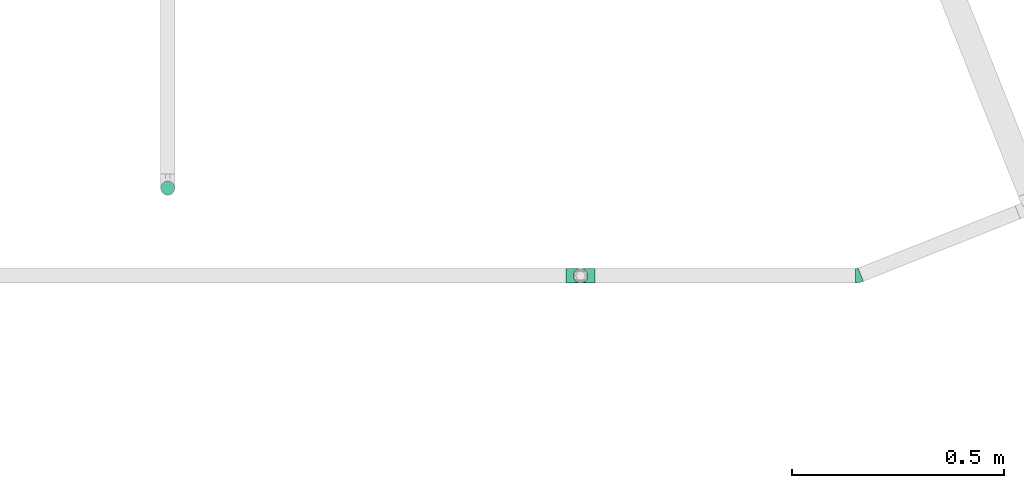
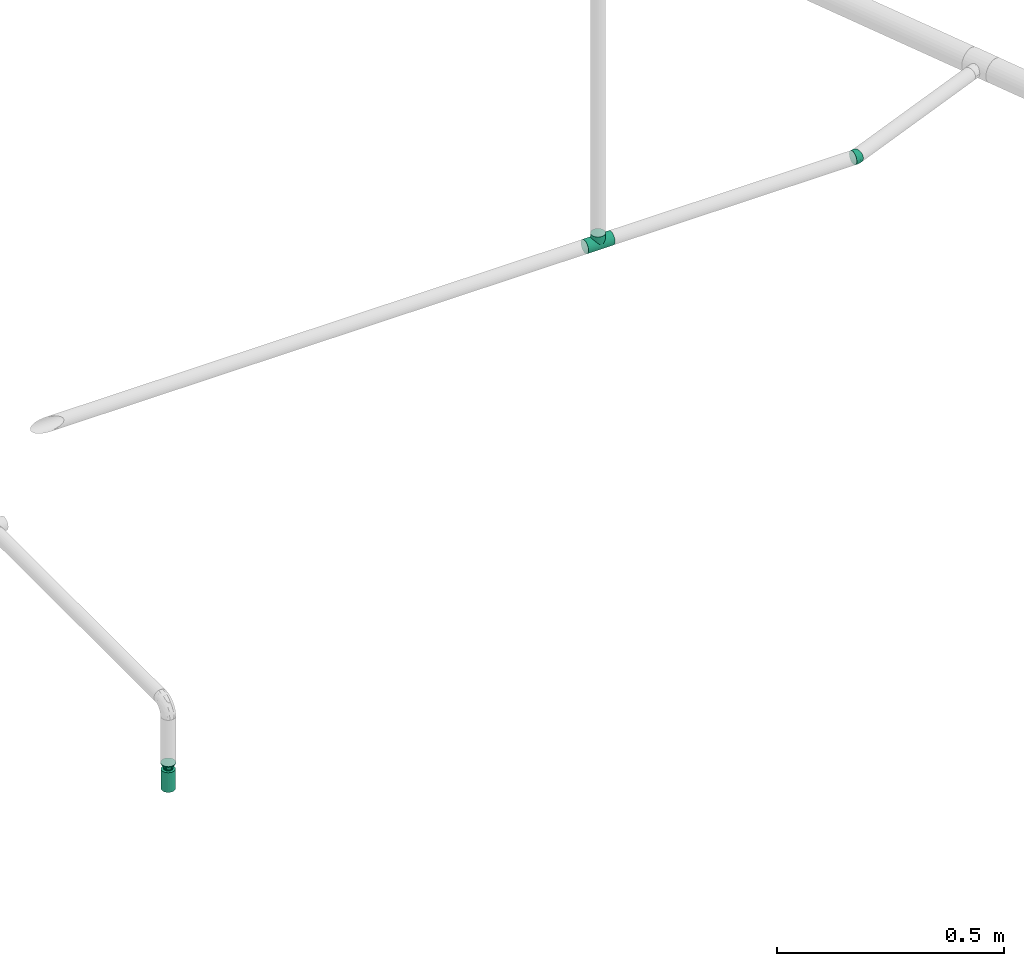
# One storey, part 28 of 94: 3 flow fittings, 1 flow terminal.
"""IFC2X3 building model written with IfcOpenShell, lengths in millimetres."""

from ifc_helpers import new_model, entity, si_unit, converted_unit, derived_unit, direction, frame, origin_with_axes, place, context, subcontext, project, spatial, open_shell, surface_model, source, transform, mapped, type_object, element, save


model = new_model("IFC2X3")

# Units and contexts
model_context = context("Model", 3, precision=0.01, world=frame((0.0, 4.29681676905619e-09, 0.0)), true_north=direction((4.01073788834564e-13, 1.0)))
plan_context = context("Plan", 3, precision=0.01, world=frame((0.0, 4.29681676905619e-09, 0.0)), true_north=direction((4.01073788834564e-13, 1.0)))
body_context = subcontext(model_context, "Body", "Model", "MODEL_VIEW")
ifc_project = project(units=[converted_unit("PLANEANGLEUNIT", "DEGREE", entity("IfcPositiveLengthMeasure", 0.0174532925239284), si_unit("PLANEANGLEUNIT", "RADIAN"), dimensions=[0, 0, 0, 0, 0, 0, 0]), si_unit("AREAUNIT", "SQUARE_METRE"), si_unit("LENGTHUNIT", "METRE", prefix="MILLI"), si_unit("MASSUNIT", "GRAM", prefix="KILO"), si_unit("POWERUNIT", "WATT"), si_unit("PRESSUREUNIT", "PASCAL", prefix="KILO"), si_unit("FORCEUNIT", "NEWTON", prefix="KILO"), si_unit("ELECTRICVOLTAGEUNIT", "VOLT"), si_unit("ELECTRICCURRENTUNIT", "AMPERE"), si_unit("THERMODYNAMICTEMPERATUREUNIT", "DEGREE_CELSIUS"), si_unit("TIMEUNIT", "SECOND"), si_unit("VOLUMEUNIT", "CUBIC_METRE"), derived_unit("LINEARVELOCITYUNIT", [(si_unit("LENGTHUNIT", "METRE"), 1), (si_unit("TIMEUNIT", "SECOND"), -1)]), derived_unit("VOLUMETRICFLOWRATEUNIT", [(si_unit("VOLUMEUNIT", "CUBIC_METRE"), 1), (si_unit("TIMEUNIT", "SECOND"), -1)]), derived_unit("THERMALTRANSMITTANCEUNIT", [(si_unit("POWERUNIT", "WATT"), 1), (si_unit("THERMODYNAMICTEMPERATUREUNIT", "KELVIN"), -1), (si_unit("AREAUNIT", "SQUARE_METRE"), -1)]), derived_unit("SOUNDPRESSUREUNIT", [(si_unit("PRESSUREUNIT", "PASCAL"), 1)])], contexts=[model_context, plan_context])

# Site, building, storey
site_placement = place(None, frame((0.0, -4.29681676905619e-09, 0.0), z_axis=(0.0, 0.0, 1.0), x_axis=(1.0, 0.0, 0.0)))
site = spatial("IfcSite", under=ifc_project, at=site_placement, CompositionType="ELEMENT")
building_placement = place(site_placement, frame((0.0, 4.29681676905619e-09, 0.0), z_axis=(0.0, 0.0, 1.0), x_axis=(1.0, 0.0, 0.0)))
building = spatial("IfcBuilding", under=site, at=building_placement, Name="mc-building", CompositionType="ELEMENT")
storey_placement = place(building_placement, frame((0.0, 0.0, 210900.0), z_axis=(0.0, 0.0, 1.0), x_axis=(1.0, 0.0, 0.0)))
storey = spatial("IfcBuildingStorey", under=building, at=storey_placement, Name="Nivå F", CompositionType="ELEMENT", Elevation=210900.0)

# Flow fittings
pipe_fitting_type_1 = type_object("IfcPipeFittingType", Name="magi_pipe_fe_tee_centric_90_NOR", PredefinedType="JUNCTION")
shared_shape_1 = source(origin_with_axes(), body_context, "Body", "SurfaceModel", [
    surface_model("IfcShellBasedSurfaceModel", [(-33.8, 4.37404, -16.32415), (-33.8, 0.0, -16.9), (-33.8, 16.32415, -4.37404), (-33.8, 8.45, -14.63583), (-33.8, 11.9501, -11.9501), (-33.8, 14.63583, -8.45), (-33.8, -16.9, 0.0), (-33.8, -11.9501, -11.9501), (-33.8, -14.63583, -8.45), (-33.8, -8.45, -14.63583), (-33.8, -4.37404, -16.32415), (-33.8, -16.32415, -4.37404), (-33.8, 14.63583, 8.45), (-33.8, 16.32415, 4.37404), (-33.8, -8.45, 14.63583), (-33.8, 8.45, 14.63583), (-33.8, 11.9501, 11.9501), (-33.8, 4.37404, 16.32415), (-33.8, 0.0, 16.9), (-33.8, -11.9501, 11.9501), (-33.8, -14.63583, 8.45), (-33.8, -16.32415, 4.37404), (-33.8, -4.37404, 16.32415), (-33.8, 16.9, 0.0), (33.8, 4.37404, -16.32415), (33.8, -16.9, 0.0), (33.8, 0.0, -16.9), (33.8, 14.63583, -8.45), (33.8, 8.45, -14.63583), (33.8, 16.32415, -4.37404), (33.8, 11.9501, -11.9501), (33.8, -16.32415, 4.37404), (33.8, -8.45, -14.63583), (33.8, -4.37404, -16.32415), (33.8, -11.9501, -11.9501), (33.8, -14.63583, -8.45), (33.8, -16.32415, -4.37404), (33.8, 16.32415, 4.37404), (33.8, 8.45, 14.63583), (33.8, 14.63583, 8.45), (33.8, 11.9501, 11.9501), (33.8, -8.45, 14.63583), (33.8, 4.37404, 16.32415), (33.8, -14.63583, 8.45), (33.8, -11.9501, 11.9501), (33.8, 0.0, 16.9), (33.8, -4.37404, 16.32415), (33.8, 16.9, 0.0), (16.28698, -16.28698, 4.51047), (16.9, -16.9, 0.0), (14.62704, -14.62704, 8.4652), (9.47213, -9.47213, 13.99602), (12.26343, -12.26343, 11.62834), (-16.9, -16.9, 0.0), (-16.28698, -16.28698, 4.51047), (-14.62704, -14.62704, 8.4652), (-12.26343, -12.26343, 11.62834), (-9.47213, -9.47213, 13.99602), (-6.42894, -6.42894, 15.62942), (6.42894, -6.42894, 15.62942), (3.24522, -3.24522, 16.58549), (0.0, 0.0, 16.9), (-3.24522, -3.24522, 16.58549), (3.24522, -3.24522, -16.58549), (0.0, 0.0, -16.9), (-3.24522, -3.24522, -16.58549), (-6.42894, -6.42894, -15.62942), (6.42894, -6.42894, -15.62942), (9.47213, -9.47213, -13.99602), (12.26343, -12.26343, -11.62834), (14.62704, -14.62704, -8.4652), (16.28698, -16.28698, -4.51047), (-9.47213, -9.47213, -13.99602), (-12.26343, -12.26343, -11.62834), (-16.28698, -16.28698, -4.51047), (-14.62704, -14.62704, -8.4652), (4.37404, -25.35, -16.32415), (-16.9, -25.35, 0.0), (0.0, -25.35, -16.9), (14.63583, -25.35, -8.45), (8.45, -25.35, -14.63583), (16.32415, -25.35, -4.37404), (11.9501, -25.35, -11.9501), (-11.9501, -25.35, -11.9501), (-8.45, -25.35, -14.63583), (-4.37404, -25.35, -16.32415), (-14.63583, -25.35, -8.45), (-16.32415, -25.35, -4.37404), (16.9, -25.35, 0.0), (8.45, -25.35, 14.63583), (16.32415, -25.35, 4.37404), (14.63583, -25.35, 8.45), (-8.45, -25.35, 14.63583), (11.9501, -25.35, 11.9501), (4.37404, -25.35, 16.32415), (-16.32415, -25.35, 4.37404), (-11.9501, -25.35, 11.9501), (-14.63583, -25.35, 8.45), (0.0, -25.35, 16.9), (-4.37404, -25.35, 16.32415)], [open_shell([[[0, 1, 2]], [[3, 0, 4]], [[0, 2, 5]], [[4, 0, 5]], [[6, 2, 1]], [[7, 8, 9]], [[1, 10, 9]], [[11, 6, 8]], [[1, 9, 8]], [[1, 8, 6]], [[6, 12, 2]], [[12, 13, 2]], [[14, 12, 6]], [[12, 14, 15]], [[16, 12, 15]], [[17, 15, 18]], [[19, 14, 20]], [[21, 20, 14]], [[22, 18, 14]], [[14, 6, 21]], [[14, 18, 15]], [[23, 2, 13]], [[24, 25, 26]], [[27, 24, 28]], [[27, 29, 24]], [[27, 28, 30]], [[31, 25, 24]], [[26, 32, 33]], [[26, 34, 32]], [[35, 25, 36]], [[35, 34, 26]], [[25, 35, 26]], [[24, 29, 31]], [[29, 37, 38]], [[38, 37, 39]], [[38, 31, 29]], [[38, 39, 40]], [[41, 38, 42]], [[43, 41, 44]], [[41, 43, 31]], [[41, 45, 46]], [[41, 31, 38]], [[42, 45, 41]], [[29, 47, 37]], [[31, 43, 48]], [[25, 31, 49]], [[49, 31, 48]], [[43, 50, 48]], [[44, 41, 51]], [[50, 43, 52]], [[51, 52, 44]], [[52, 43, 44]], [[53, 54, 21]], [[53, 21, 6]], [[21, 54, 20]], [[54, 55, 20]], [[56, 57, 19]], [[19, 20, 56]], [[19, 57, 14]], [[56, 20, 55]], [[14, 57, 58]], [[51, 41, 59]], [[60, 45, 61]], [[59, 46, 60]], [[46, 59, 41]], [[60, 46, 45]], [[61, 45, 42]], [[39, 37, 13]], [[16, 38, 40]], [[12, 40, 39]], [[42, 38, 15]], [[23, 37, 47]], [[62, 61, 18]], [[62, 22, 58]], [[22, 62, 18]], [[58, 22, 14]], [[61, 17, 18]], [[42, 17, 61]], [[15, 17, 42]], [[15, 38, 16]], [[12, 16, 40]], [[13, 12, 39]], [[37, 23, 13]], [[5, 27, 30]], [[23, 47, 29]], [[30, 28, 3]], [[27, 2, 29]], [[26, 33, 63]], [[26, 64, 24]], [[64, 26, 63]], [[28, 24, 0]], [[64, 0, 24]], [[4, 30, 3]], [[2, 27, 5]], [[5, 30, 4]], [[2, 23, 29]], [[65, 66, 10]], [[1, 0, 64]], [[1, 65, 10]], [[66, 9, 10]], [[0, 3, 28]], [[1, 64, 65]], [[63, 33, 67]], [[32, 34, 68]], [[69, 68, 34]], [[35, 70, 69]], [[69, 34, 35]], [[32, 68, 67]], [[36, 25, 49]], [[36, 71, 35]], [[71, 36, 49]], [[35, 71, 70]], [[72, 9, 66]], [[72, 7, 9]], [[7, 72, 73]], [[7, 73, 8]], [[74, 53, 11]], [[75, 74, 8]], [[74, 11, 8]], [[11, 53, 6]], [[75, 8, 73]], [[32, 67, 33]], [[76, 77, 78]], [[79, 76, 80]], [[79, 81, 76]], [[79, 80, 82]], [[77, 76, 81]], [[78, 83, 84]], [[84, 85, 78]], [[86, 77, 87]], [[83, 78, 86]], [[77, 86, 78]], [[81, 88, 77]], [[89, 88, 90]], [[89, 90, 91]], [[92, 77, 89]], [[89, 91, 93]], [[92, 89, 94]], [[95, 96, 97]], [[96, 95, 92]], [[92, 98, 99]], [[95, 77, 92]], [[94, 98, 92]], [[89, 77, 88]], [[77, 95, 53]], [[54, 53, 95]], [[97, 96, 56]], [[96, 92, 57]], [[95, 97, 54]], [[58, 92, 99]], [[55, 54, 97]], [[56, 55, 97]], [[58, 57, 92]], [[98, 61, 62]], [[58, 99, 62]], [[56, 96, 57]], [[62, 99, 98]], [[94, 60, 98]], [[89, 59, 94]], [[91, 90, 48]], [[52, 93, 91]], [[93, 51, 89]], [[49, 90, 88]], [[59, 60, 94]], [[51, 59, 89]], [[49, 48, 90]], [[50, 52, 91]], [[48, 50, 91]], [[51, 93, 52]], [[98, 60, 61]], [[88, 81, 49]], [[71, 49, 81]], [[79, 82, 69]], [[82, 80, 68]], [[81, 79, 71]], [[67, 80, 76]], [[70, 71, 79]], [[69, 70, 79]], [[67, 68, 80]], [[78, 64, 63]], [[67, 76, 63]], [[69, 82, 68]], [[63, 76, 78]], [[85, 65, 78]], [[84, 66, 85]], [[86, 87, 74]], [[86, 73, 83]], [[72, 84, 83]], [[53, 87, 77]], [[66, 65, 85]], [[72, 66, 84]], [[53, 74, 87]], [[75, 73, 86]], [[74, 75, 86]], [[72, 83, 73]], [[78, 65, 64]]])]),
])
flow_fitting_1_placement = place(storey_placement, frame((719973.83068, 435194.37907, 3600.0), z_axis=(0.0, 1.0, 0.0), x_axis=(1.0, 0.0, 0.0)))
element("IfcFlowFitting", 1, at=flow_fitting_1_placement, inside=storey, type_object=pipe_fitting_type_1, Name="magi_pipe_fe_tee_centric_90_NOR", context=body_context, shape_type="MappedRepresentation", body=[
    mapped(shared_shape_1, transform((0.0, 0.0, 0.0), scale=1.0)),
])
pipe_fitting_type_2 = type_object("IfcPipeFittingType", Name="magi_pipe_fe_elbow_short_001", PredefinedType="BEND")
shared_shape_2 = source(origin_with_axes(), body_context, "Body", "SurfaceModel", [
    surface_model("IfcShellBasedSurfaceModel", [(-6.47272, 4.37404, -16.32415), (-6.47272, 0.0, -16.9), (-6.47272, 11.9501, -11.9501), (-6.47272, 8.45, -14.63583), (-6.47272, 16.32415, -4.37404), (-6.47272, 14.63583, -8.45), (-6.47272, -14.63583, -8.45), (-6.47272, -16.32415, -4.37404), (-6.47272, -8.45, 14.63583), (-6.47272, -11.9501, -11.9501), (-6.47272, -8.45, -14.63583), (-6.47272, -4.37404, -16.32415), (-6.47272, -16.9, 0.0), (-6.47272, -16.32415, 4.37404), (-6.47272, 11.9501, 11.9501), (-6.47272, 16.32415, 4.37404), (-6.47272, 14.63583, 8.45), (-6.47272, 4.37404, 16.32415), (-6.47272, 8.45, 14.63583), (-6.47272, -14.63583, 8.45), (-6.47272, -11.9501, 11.9501), (-6.47272, -4.37404, 16.32415), (-6.47272, 0.0, 16.9), (-6.47272, 16.9, 0.0), (4.39877, 6.45594, -16.32415), (12.04577, -12.77785, -4.37404), (6.01477, 2.39136, -16.9), (1.59978, 13.49599, -11.9501), (2.8929, 10.24352, -14.63583), (0.60753, 15.9917, -8.45), (-0.01622, 17.56057, -4.37404), (1.59978, 13.49599, 11.9501), (9.13664, -5.4608, -14.63583), (11.42201, -11.20898, -8.45), (10.42977, -8.71327, -11.9501), (7.63077, -1.67322, -16.32415), (12.04577, -12.77785, 4.37404), (12.25852, -13.31296, 0.0), (-0.22897, 18.09568, 0.0), (-0.01622, 17.56057, 4.37404), (0.60753, 15.9917, 8.45), (2.8929, 10.24352, 14.63583), (4.39877, 6.45594, 16.32415), (9.13664, -5.4608, 14.63583), (6.01477, 2.39136, 16.9), (10.42977, -8.71327, 11.9501), (11.42201, -11.20898, 8.45), (7.63077, -1.67322, 16.32415), (1.85403, -9.6816, 13.26474), (1.79785, -12.81896, 10.10403), (2.83982, -14.82933, 6.22192), (1.13843, -5.94477, 15.52937), (0.33675, -1.75849, 16.72805), (-0.49597, 2.58991, 16.77851), (-3.29412, 17.20161, 0.0), (0.32149, -16.14055, 3.16707), (3.06308, -15.99517, 0.0), (0.33675, -1.75849, -16.72805), (1.13843, -5.94477, -15.52937), (3.06534, -12.57623, -10.10403), (2.83982, -14.82933, -6.22192), (-0.49597, 2.58991, -16.77851), (1.85403, -9.6816, -13.26474), (5.66442, -15.11737, -3.16707)], [open_shell([[[0, 1, 2]], [[3, 0, 2]], [[4, 5, 2]], [[6, 2, 1]], [[2, 7, 8]], [[9, 6, 10]], [[1, 11, 10]], [[1, 10, 6]], [[6, 7, 2]], [[12, 13, 7]], [[4, 2, 14]], [[14, 15, 4]], [[16, 15, 14]], [[17, 18, 14]], [[2, 8, 14]], [[17, 14, 8]], [[19, 20, 13]], [[13, 20, 7]], [[21, 22, 8]], [[20, 8, 7]], [[8, 22, 17]], [[23, 4, 15]], [[24, 25, 26]], [[27, 24, 28]], [[27, 29, 30]], [[25, 24, 27]], [[31, 25, 27]], [[32, 33, 34]], [[32, 35, 26]], [[32, 25, 33]], [[26, 25, 32]], [[25, 36, 37]], [[38, 27, 30]], [[38, 39, 40]], [[38, 40, 31]], [[31, 41, 42]], [[43, 25, 31]], [[44, 31, 42]], [[36, 45, 46]], [[36, 25, 45]], [[43, 44, 47]], [[25, 43, 45]], [[31, 44, 43]], [[31, 27, 38]], [[48, 20, 49]], [[8, 20, 48]], [[20, 19, 49]], [[36, 46, 50]], [[19, 50, 49]], [[21, 8, 51]], [[48, 51, 8]], [[22, 21, 52]], [[22, 53, 17]], [[46, 49, 50]], [[50, 19, 13]], [[45, 43, 48]], [[16, 14, 40]], [[18, 31, 14]], [[47, 44, 52]], [[51, 52, 21]], [[44, 42, 53]], [[54, 15, 39]], [[55, 50, 13]], [[54, 23, 15]], [[39, 15, 16]], [[12, 55, 13]], [[41, 18, 17]], [[52, 53, 22]], [[12, 56, 55]], [[43, 47, 51]], [[52, 51, 47]], [[43, 51, 48]], [[53, 52, 44]], [[45, 48, 49]], [[45, 49, 46]], [[56, 37, 36]], [[40, 39, 16]], [[38, 54, 39]], [[41, 17, 42]], [[18, 41, 31]], [[40, 14, 31]], [[17, 53, 42]], [[36, 50, 55]], [[36, 55, 56]], [[1, 57, 11]], [[58, 57, 35]], [[6, 59, 60]], [[1, 0, 61]], [[27, 2, 5]], [[62, 58, 32]], [[2, 27, 3]], [[63, 60, 25]], [[4, 30, 5]], [[34, 33, 59]], [[57, 61, 26]], [[3, 24, 0]], [[56, 12, 7]], [[7, 60, 63]], [[62, 9, 10]], [[7, 63, 56]], [[7, 6, 60]], [[6, 9, 59]], [[58, 10, 11]], [[4, 23, 54]], [[54, 38, 30]], [[58, 11, 57]], [[30, 29, 5]], [[27, 5, 29]], [[9, 62, 59]], [[3, 28, 24]], [[62, 10, 58]], [[33, 60, 59]], [[3, 27, 28]], [[57, 1, 61]], [[26, 61, 24]], [[58, 35, 32]], [[24, 61, 0]], [[37, 63, 25]], [[62, 32, 34]], [[33, 25, 60]], [[37, 56, 63]], [[34, 59, 62]], [[35, 57, 26]], [[4, 54, 30]]])]),
])
flow_fitting_2_placement = place(storey_placement, frame((720628.9668, 435194.37907, 3600.0), z_axis=(0.0, 0.0, 1.0), x_axis=(1.0, 0.0, 0.0)))
element("IfcFlowFitting", 2, at=flow_fitting_2_placement, inside=storey, type_object=pipe_fitting_type_2, Name="magi_pipe_fe_elbow_short_001", context=body_context, shape_type="MappedRepresentation", body=[
    mapped(shared_shape_2, transform((0.0, 0.0, 0.0), scale=1.0)),
])
pipe_fitting_type_3 = type_object("IfcPipeFittingType", Name="magi_pipe_fe_reducer_centric_short_NOR", PredefinedType="TRANSITION")
shared_shape_3 = source(origin_with_axes(), body_context, "Body", "SurfaceModel", [
    surface_model("IfcShellBasedSurfaceModel", [(-2.0, -7.56604, -7.56604), (-2.0, -10.33541, -2.76936), (-2.0, -5.35, -9.26647), (-2.0, 5.35, -9.26647), (-2.0, 10.33541, -2.76936), (-2.0, 7.56604, -7.56604), (12.4, 11.9501, 11.9501), (12.4, 0.0, 16.9), (12.4, 11.9501, -11.9501), (12.4, 16.9, 0.0), (0.0, -10.7, 0.0), (0.0, -5.35, 9.26647), (0.0, -5.35, -9.26647), (0.0, 10.7, 0.0), (12.4, 15.66253, -2.98753), (12.4, 8.96258, -13.18758), (0.0, 6.6875, -6.94985), (12.4, -15.66253, -2.98753), (12.4, -16.9, 0.0), (12.4, 5.97505, -14.42505), (0.0, 5.35, -9.26647), (12.4, 14.42505, -5.97505), (0.0, 8.025, -4.63324), (0.0, 9.3625, -2.31662), (0.0, -9.3625, -2.31662), (0.0, -8.025, -4.63324), (12.4, -14.42505, -5.97505), (12.4, 13.18758, -8.96258), (12.4, -13.18758, -8.96258), (12.4, -11.9501, -11.9501), (0.0, -6.6875, -6.94985), (12.4, -8.96258, -13.18758), (12.4, -5.97505, -14.42505), (12.4, -15.66253, 2.98753), (12.4, -8.96258, 13.18758), (0.0, -6.6875, 6.94985), (12.4, -11.9501, 11.9501), (12.4, 15.66253, 2.98753), (12.4, -5.97505, 14.42505), (12.4, -14.42505, 5.97505), (0.0, -8.025, 4.63324), (0.0, -9.3625, 2.31662), (0.0, 9.3625, 2.31662), (0.0, 8.025, 4.63324), (12.4, 14.42505, 5.97505), (12.4, -13.18758, 8.96258), (12.4, 13.18758, 8.96258), (0.0, 6.6875, 6.94985), (12.4, 8.96258, 13.18758), (0.0, 5.35, 9.26647), (12.4, 5.97505, 14.42505), (14.4, 4.37404, -16.32415), (14.4, 8.45, -14.63583), (14.4, 11.9501, -11.9501), (14.4, -8.45, -14.63583), (14.4, 16.32415, -4.37404), (14.4, 16.32415, 4.37404), (14.4, 14.63583, -8.45), (14.4, 0.0, -16.9), (14.4, -4.37404, -16.32415), (14.4, -11.9501, -11.9501), (14.4, -16.32415, -4.37404), (14.4, -14.63583, -8.45), (14.4, -16.32415, 4.37404), (14.4, 16.9, 0.0), (14.4, 14.63583, 8.45), (14.4, 11.9501, 11.9501), (14.4, 4.37404, 16.32415), (14.4, 8.45, 14.63583), (14.4, 0.0, 16.9), (14.4, -14.63583, 8.45), (14.4, -16.9, 0.0), (14.4, -8.45, 14.63583), (14.4, -11.9501, 11.9501), (14.4, -4.37404, 16.32415), (12.4, 4.37404, 16.32415), (12.4, -14.63583, 8.45), (12.4, 16.32415, 4.37404), (12.4, 8.45, 14.63583), (12.4, 14.63583, 8.45), (12.4, -8.45, 14.63583), (12.4, -4.37404, 16.32415), (12.4, -16.32415, 4.37404), (12.4, -16.32415, -4.37404), (12.4, -8.45, -14.63583), (12.4, 16.32415, -4.37404), (12.4, 14.63583, -8.45), (12.4, 8.45, -14.63583), (12.4, 4.37404, -16.32415), (12.4, 0.0, -16.9), (12.4, -14.63583, -8.45), (12.4, -4.37404, -16.32415), (-2.0, 2.76936, 10.33541), (-2.0, 0.0, 10.7), (-2.0, 5.35, 9.26647), (-2.0, 7.56604, 7.56604), (-2.0, 9.26647, 5.35), (-2.0, 10.33541, 2.76936), (-2.0, -10.33541, 2.76936), (-2.0, -2.76936, 10.33541), (-2.0, -7.56604, 7.56604), (-2.0, -5.35, 9.26647), (-2.0, -9.26647, 5.35), (-2.0, -10.7, 0.0), (-2.0, 9.26647, -5.35), (-2.0, 2.76936, -10.33541), (-2.0, -9.26647, -5.35), (-2.0, 0.0, -10.7), (-2.0, -2.76936, -10.33541), (-2.0, 10.7, 0.0), (0.0, 0.0, -10.7), (0.0, 2.76936, -10.33541), (0.0, 10.33541, -2.76936), (0.0, 7.56604, -7.56604), (0.0, -10.33541, -2.76936), (0.0, 9.26647, -5.35), (0.0, 0.0, 10.7), (0.0, -2.76936, -10.33541), (0.0, -7.56604, -7.56604), (0.0, -9.26647, -5.35), (0.0, 10.33541, 2.76936), (0.0, 9.26647, 5.35), (0.0, 7.56604, 7.56604), (0.0, 2.76936, 10.33541), (0.0, -7.56604, 7.56604), (0.0, -10.33541, 2.76936), (0.0, -9.26647, 5.35), (0.0, -2.76936, 10.33541), (0.0, 2.675, -9.26647), (0.0, -2.675, -9.26647), (12.4, 2.98753, -15.66253), (0.0, 0.0, -9.26647), (12.4, -2.98753, -15.66253), (0.0, -2.675, 9.26647), (0.0, 2.675, 9.26647), (12.4, -2.98753, 15.66253), (0.0, 0.0, 9.26647), (12.4, 2.98753, 15.66253)], [open_shell([[[0, 1, 2]], [[3, 4, 5]], [[6, 7, 8]], [[8, 9, 6]], [[10, 11, 12]], [[13, 9, 14]], [[15, 16, 8]], [[17, 18, 10]], [[15, 19, 20]], [[21, 22, 23]], [[24, 25, 26]], [[22, 21, 27]], [[28, 26, 25]], [[29, 30, 31]], [[12, 32, 31]], [[10, 18, 33]], [[34, 35, 36]], [[37, 9, 13]], [[34, 38, 11]], [[39, 40, 41]], [[42, 43, 44]], [[40, 39, 45]], [[46, 44, 43]], [[6, 47, 48]], [[49, 50, 48]], [[51, 52, 53]], [[54, 51, 53]], [[53, 55, 56]], [[55, 53, 57]], [[53, 56, 54]], [[58, 54, 59]], [[58, 51, 54]], [[60, 61, 62]], [[61, 60, 54]], [[54, 63, 61]], [[56, 55, 64]], [[56, 65, 66]], [[56, 66, 67]], [[67, 63, 54]], [[67, 66, 68]], [[63, 67, 69]], [[69, 70, 63]], [[71, 61, 63]], [[70, 72, 73]], [[70, 69, 72]], [[72, 69, 74]], [[54, 56, 67]], [[75, 76, 7]], [[77, 75, 78]], [[6, 79, 77]], [[6, 77, 78]], [[76, 75, 77]], [[80, 76, 36]], [[80, 81, 7]], [[7, 76, 80]], [[82, 76, 77]], [[82, 83, 18]], [[82, 77, 84]], [[77, 85, 8]], [[8, 85, 86]], [[8, 87, 88]], [[84, 77, 8]], [[88, 89, 8]], [[83, 29, 90]], [[29, 83, 84]], [[84, 89, 91]], [[83, 82, 84]], [[8, 89, 84]], [[85, 77, 9]], [[83, 61, 18]], [[90, 62, 83]], [[54, 29, 84]], [[90, 29, 60]], [[59, 84, 91]], [[83, 62, 61]], [[61, 71, 18]], [[59, 54, 84]], [[60, 29, 54]], [[60, 62, 90]], [[58, 59, 91]], [[91, 89, 58]], [[88, 51, 89]], [[87, 52, 88]], [[57, 8, 86]], [[87, 8, 53]], [[55, 86, 85]], [[87, 53, 52]], [[52, 51, 88]], [[64, 55, 85]], [[57, 86, 55]], [[57, 53, 8]], [[9, 64, 85]], [[89, 51, 58]], [[77, 56, 9]], [[79, 65, 77]], [[68, 6, 78]], [[79, 6, 66]], [[67, 78, 75]], [[77, 65, 56]], [[56, 64, 9]], [[67, 68, 78]], [[66, 6, 68]], [[66, 65, 79]], [[69, 67, 75]], [[75, 7, 69]], [[81, 74, 7]], [[80, 72, 81]], [[70, 36, 76]], [[80, 36, 73]], [[63, 76, 82]], [[80, 73, 72]], [[72, 74, 81]], [[71, 63, 82]], [[70, 76, 63]], [[70, 73, 36]], [[18, 71, 82]], [[7, 74, 69]], [[92, 1, 93]], [[94, 1, 92]], [[95, 96, 97]], [[95, 97, 94]], [[98, 93, 1]], [[99, 100, 101]], [[99, 93, 100]], [[100, 98, 102]], [[93, 98, 100]], [[98, 1, 103]], [[94, 97, 1]], [[1, 97, 4]], [[5, 4, 104]], [[4, 3, 1]], [[105, 1, 3]], [[1, 0, 106]], [[2, 107, 108]], [[2, 1, 105]], [[105, 107, 2]], [[4, 97, 109]], [[20, 110, 111]], [[112, 20, 113]], [[114, 20, 112]], [[112, 113, 115]], [[116, 114, 112]], [[110, 12, 117]], [[110, 20, 12]], [[118, 114, 119]], [[114, 118, 12]], [[20, 114, 12]], [[112, 13, 120]], [[120, 121, 122]], [[120, 122, 123]], [[116, 112, 123]], [[123, 122, 49]], [[116, 124, 114]], [[125, 124, 126]], [[10, 114, 125]], [[124, 127, 11]], [[125, 114, 124]], [[127, 124, 116]], [[123, 112, 120]], [[1, 114, 103]], [[106, 119, 1]], [[12, 0, 2]], [[106, 0, 118]], [[117, 2, 108]], [[1, 119, 114]], [[114, 10, 103]], [[117, 12, 2]], [[118, 0, 12]], [[118, 119, 106]], [[110, 117, 108]], [[108, 107, 110]], [[105, 111, 107]], [[3, 20, 105]], [[115, 5, 104]], [[3, 5, 113]], [[112, 104, 4]], [[3, 113, 20]], [[20, 111, 105]], [[13, 112, 4]], [[115, 104, 112]], [[115, 113, 5]], [[109, 13, 4]], [[107, 111, 110]], [[97, 120, 109]], [[96, 121, 97]], [[49, 95, 94]], [[96, 95, 122]], [[123, 94, 92]], [[97, 121, 120]], [[120, 13, 109]], [[123, 49, 94]], [[122, 95, 49]], [[122, 121, 96]], [[116, 123, 92]], [[92, 93, 116]], [[99, 127, 93]], [[101, 11, 99]], [[126, 100, 102]], [[101, 100, 124]], [[125, 102, 98]], [[101, 124, 11]], [[11, 127, 99]], [[10, 125, 98]], [[126, 102, 125]], [[126, 124, 100]], [[103, 10, 98]], [[93, 127, 116]], [[18, 7, 36]], [[18, 29, 8]], [[89, 8, 29]], [[18, 8, 7]], [[13, 11, 49]], [[13, 20, 12]], [[13, 12, 11]], [[24, 26, 17]], [[10, 24, 17]], [[16, 15, 20]], [[30, 12, 31]], [[23, 14, 21]], [[19, 128, 20]], [[27, 8, 16]], [[32, 12, 129]], [[30, 28, 25]], [[130, 131, 128]], [[129, 132, 32]], [[16, 22, 27]], [[13, 14, 23]], [[128, 19, 130]], [[130, 89, 131]], [[131, 132, 129]], [[89, 132, 131]], [[28, 30, 29]], [[42, 44, 37]], [[13, 42, 37]], [[35, 34, 11]], [[47, 49, 48]], [[41, 33, 39]], [[38, 133, 11]], [[45, 36, 35]], [[50, 49, 134]], [[47, 46, 43]], [[135, 136, 133]], [[134, 137, 50]], [[35, 40, 45]], [[10, 33, 41]], [[133, 38, 135]], [[135, 7, 136]], [[136, 137, 134]], [[7, 137, 136]], [[46, 47, 6]]])]),
])
flow_fitting_3_placement = place(storey_placement, frame((719000.0, 435400.95076, 2403.04800000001), z_axis=(-1.0, 0.0, 0.0), x_axis=(0.0, 0.0, 1.0)))
element("IfcFlowFitting", 3, at=flow_fitting_3_placement, inside=storey, type_object=pipe_fitting_type_3, Name="magi_pipe_fe_reducer_centric_short_NOR", context=body_context, shape_type="MappedRepresentation", body=[
    mapped(shared_shape_3, transform((0.0, 0.0, 0.0), scale=1.0)),
])

# Flow terminal
fire_suppression_terminal_type = type_object("IfcFireSuppressionTerminalType", Name="SP-15-K80-68DGR-STD-N", PredefinedType="NOTDEFINED")
shared_shape_4 = source(origin_with_axes(), body_context, "Body", "SurfaceModel", [
    surface_model("IfcShellBasedSurfaceModel", [(4.1411, -15.45481, 53.0), (8.0, -13.85641, 53.0), (11.31371, -11.31371, 53.0), (-8.0, -13.85641, 53.0), (15.45481, -4.1411, 53.0), (16.0, 0.0, 53.0), (13.85641, -8.0, 53.0), (0.0, -16.0, 53.0), (-4.1411, -15.45481, 53.0), (-13.85641, -8.0, 53.0), (-11.31371, -11.31371, 53.0), (-15.45481, -4.1411, 53.0), (15.45481, 4.1411, 53.0), (13.85641, 8.0, 53.0), (11.31371, 11.31371, 53.0), (-4.1411, 15.45481, 53.0), (8.0, 13.85641, 53.0), (4.1411, 15.45481, 53.0), (0.0, 16.0, 53.0), (-13.85641, 8.0, 53.0), (-15.45481, 4.1411, 53.0), (-16.0, 0.0, 53.0), (-11.31371, 11.31371, 53.0), (-8.0, 13.85641, 53.0), (0.0, 16.0, 0.0), (4.1411, 15.45481, 0.0), (8.0, 13.85641, 0.0), (-4.1411, 15.45481, 0.0), (11.31371, 11.31371, 0.0), (13.85641, 8.0, 0.0), (15.45481, 4.1411, 0.0), (-15.45481, -4.1411, 0.0), (-11.31371, 11.31371, 0.0), (-8.0, 13.85641, 0.0), (-13.85641, 8.0, 0.0), (-15.45481, 4.1411, 0.0), (-16.0, 0.0, 0.0), (4.1411, -15.45481, 0.0), (16.0, 0.0, 0.0), (15.45481, -4.1411, 0.0), (13.85641, -8.0, 0.0), (11.31371, -11.31371, 0.0), (8.0, -13.85641, 0.0), (-8.0, -13.85641, 0.0), (-13.85641, -8.0, 0.0), (-11.31371, -11.31371, 0.0), (0.0, -16.0, 0.0), (-4.1411, -15.45481, 0.0)], [open_shell([[[0, 1, 2]], [[3, 0, 2]], [[4, 5, 2]], [[4, 2, 6]], [[3, 2, 5]], [[7, 3, 8]], [[7, 0, 3]], [[3, 9, 10]], [[9, 3, 11]], [[5, 11, 3]], [[5, 12, 11]], [[12, 13, 14]], [[15, 12, 14]], [[16, 17, 18]], [[14, 16, 15]], [[18, 15, 16]], [[11, 19, 20]], [[21, 11, 20]], [[22, 15, 23]], [[15, 22, 19]], [[19, 11, 15]], [[11, 12, 15]], [[24, 25, 26]], [[27, 24, 26]], [[28, 29, 30]], [[27, 26, 28]], [[27, 28, 31]], [[27, 32, 33]], [[32, 27, 34]], [[34, 31, 35]], [[31, 34, 27]], [[35, 31, 36]], [[28, 30, 31]], [[37, 38, 39]], [[37, 39, 40]], [[41, 42, 37]], [[41, 37, 40]], [[38, 37, 43]], [[44, 43, 45]], [[43, 44, 31]], [[43, 46, 47]], [[43, 31, 38]], [[37, 46, 43]], [[38, 31, 30]], [[11, 31, 44]], [[45, 9, 44]], [[3, 43, 47]], [[45, 43, 10]], [[8, 47, 46]], [[31, 21, 36]], [[31, 11, 21]], [[44, 9, 11]], [[45, 10, 9]], [[3, 10, 43]], [[47, 8, 3]], [[46, 7, 8]], [[0, 37, 42]], [[41, 1, 42]], [[6, 40, 39]], [[41, 40, 2]], [[4, 39, 38]], [[37, 0, 7]], [[42, 1, 0]], [[41, 2, 1]], [[40, 6, 2]], [[4, 6, 39]], [[38, 5, 4]], [[37, 7, 46]], [[12, 38, 30]], [[13, 30, 29]], [[16, 26, 25]], [[17, 25, 24]], [[30, 13, 12]], [[12, 5, 38]], [[28, 14, 13]], [[28, 26, 14]], [[14, 26, 16]], [[25, 17, 16]], [[28, 13, 29]], [[24, 18, 17]], [[15, 27, 33]], [[32, 23, 33]], [[19, 34, 35]], [[32, 34, 22]], [[20, 35, 36]], [[27, 15, 18]], [[33, 23, 15]], [[32, 22, 23]], [[34, 19, 22]], [[20, 19, 35]], [[36, 21, 20]], [[27, 18, 24]]])]),
])
flow_terminal_placement = place(storey_placement, frame((719000.0, 435400.95076, 2400.0), z_axis=(0.0, 0.0, -1.0), x_axis=(-1.0, 0.0, 0.0)))
element("IfcFlowTerminal", 4, at=flow_terminal_placement, inside=storey, type_object=fire_suppression_terminal_type, Name="SP-15-K80-68DGR-STD-N", context=body_context, shape_type="MappedRepresentation", body=[
    mapped(shared_shape_4, transform((0.0, 0.0, 0.0), scale=1.0)),
])

save(model, "model.ifc")
